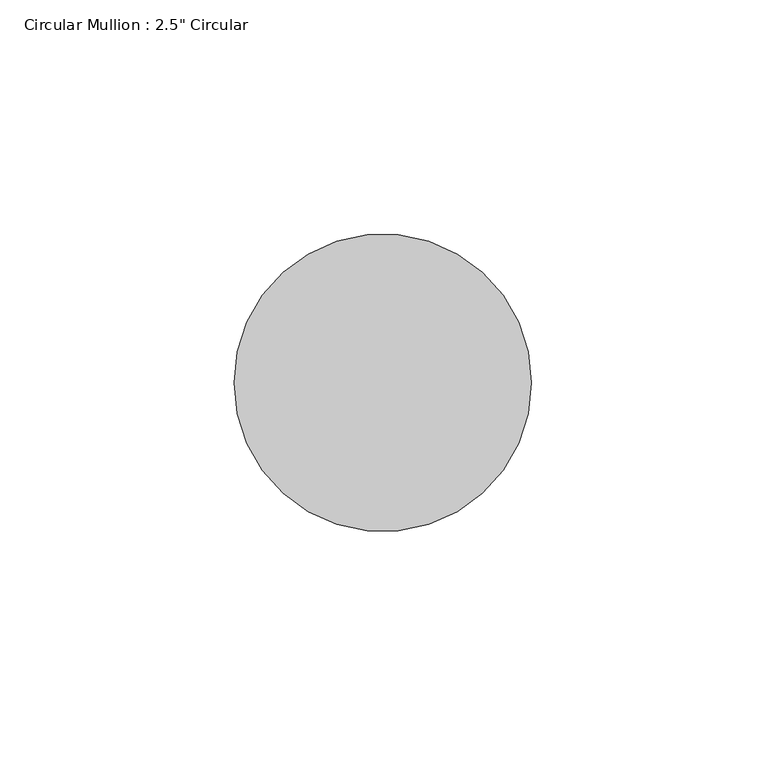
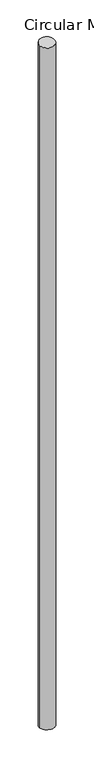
"""IFC4 building model written with IfcOpenShell, lengths in millimetres: member geometry."""

import ifcopenshell
import ifcopenshell.guid

model = None  # the IFC model being written
_history = None  # IfcOwnerHistory: only IFC2X3 demands one
_inside = {}  # id of a spatial element -> (the spatial element, [elements in it])
_under = {}  # id of a project, library or spatial element -> (it, [spatial elements below it])
_declared = {}  # id of a project -> (the project, [libraries it declares])
_typed = {}  # id of a type object -> (the type object, [elements of that type])
_made_of = {}  # id of a material, layer set ... -> (it, [elements and type objects made of it])


def new_model(schema):
    """Start an empty IFC model of exactly this schema.

    Asked for "IFC4X3", IfcOpenShell would pick the latest addendum, in which some entities
    have other attributes; the version numbers below select the first issue.
    IFC2X3 requires an IfcOwnerHistory on every rooted entity: one is made here for all.
    """
    global model, _history
    if schema == "IFC4X3":
        model = ifcopenshell.file(schema_version=(4, 3, 0, 0))
    else:
        model = ifcopenshell.file(schema=schema)
    _inside.clear()
    _under.clear()
    _declared.clear()
    _typed.clear()
    _made_of.clear()
    _history = None
    if model.schema == "IFC2X3":
        org = make("IfcOrganization", Name="unknown")
        user = make(
            "IfcPersonAndOrganization",
            ThePerson=make("IfcPerson", FamilyName="unknown"),
            TheOrganization=org,
        )
        app = make(
            "IfcApplication",
            ApplicationDeveloper=org,
            Version="unknown",
            ApplicationFullName="unknown",
            ApplicationIdentifier="unknown",
        )
        _history = make(
            "IfcOwnerHistory",
            OwningUser=user,
            OwningApplication=app,
            ChangeAction="ADDED",
            CreationDate=0,
        )
    return model


def make(cls, **values):
    """One entity of the class cls with the attributes given. An attribute that is None is left unset."""
    return model.create_entity(
        cls, **{name: value for name, value in values.items() if value is not None}
    )


def rooted(cls, **values):
    """An entity with a GlobalId (a new one), such as an element, a storey or a relation."""
    return make(cls, GlobalId=ifcopenshell.guid.new(), OwnerHistory=_history, **values)


def si_unit(unit_type, name, prefix=None):
    """IfcSIUnit, for example si_unit("LENGTHUNIT", "METRE", prefix="MILLI")."""
    return make("IfcSIUnit", UnitType=unit_type, Prefix=prefix, Name=name)


def assignment(units):
    """IfcUnitAssignment: the units of a project."""
    return None if units is None else make("IfcUnitAssignment", Units=units)


def point(xyz):
    """IfcCartesianPoint."""
    return None if xyz is None else make("IfcCartesianPoint", Coordinates=xyz)


def direction(xyz):
    """IfcDirection."""
    return None if xyz is None else make("IfcDirection", DirectionRatios=xyz)


def frame(location, z_axis=None, x_axis=None):
    """IfcAxis2Placement3D, a coordinate frame: its origin and axes. An axis left out is left unset."""
    return make(
        "IfcAxis2Placement3D",
        Location=point(location),
        Axis=direction(z_axis),
        RefDirection=direction(x_axis),
    )


def origin():
    """The frame at (0, 0, 0) with its axes left unset."""
    return frame((0.0, 0.0, 0.0))


def place(relative_to, where):
    """IfcLocalPlacement: puts the frame where relative to a parent placement (None: the world)."""
    return make(
        "IfcLocalPlacement", PlacementRelTo=relative_to, RelativePlacement=where
    )


def context(
    kind, dimensions, precision=None, world=None, true_north=None, identifier=None
):
    """IfcGeometricRepresentationContext, for example the 3D "Model" context."""
    return make(
        "IfcGeometricRepresentationContext",
        ContextIdentifier=identifier,
        ContextType=kind,
        CoordinateSpaceDimension=dimensions,
        Precision=precision,
        WorldCoordinateSystem=world,
        TrueNorth=true_north,
    )


def project(units=None, contexts=None):
    """IfcProject with its units and contexts."""
    return rooted(
        "IfcProject",
        Name="project",
        RepresentationContexts=contexts,
        UnitsInContext=assignment(units),
    )


def spatial(cls, under=None, at=None, **own):
    """A site, building, storey or space (cls), placed at a placement, below another one or the project."""
    s = rooted(cls, ObjectPlacement=at, **own)
    if under is not None:
        _under.setdefault(under.id(), (under, []))[1].append(s)
    return s


def ellipse_curve(where, semi_axis1, semi_axis2):
    """IfcEllipse in the frame where."""
    return make(
        "IfcEllipse", Position=where, SemiAxis1=semi_axis1, SemiAxis2=semi_axis2
    )


def shape(context_of_items, identifier, shape_type, items):
    """IfcShapeRepresentation: the items that make up one representation, for example the "Body"."""
    return make(
        "IfcShapeRepresentation",
        ContextOfItems=context_of_items,
        RepresentationIdentifier=identifier,
        RepresentationType=shape_type,
        Items=items,
    )


def source(mapping_origin, context_of_items, identifier, shape_type, items):
    """IfcRepresentationMap: a shape defined once, which mapped items show again and again."""
    return make(
        "IfcRepresentationMap",
        MappingOrigin=mapping_origin,
        MappedRepresentation=shape(context_of_items, identifier, shape_type, items),
    )


def transform(
    local_origin,
    x_axis=None,
    y_axis=None,
    z_axis=None,
    scale=None,
    scale2=None,
    scale3=None,
    uniform=True,
):
    """IfcCartesianTransformationOperator3D, or its non-uniform kind. x_axis, y_axis, z_axis: its Axis1, 2, 3."""
    if uniform:
        return make(
            "IfcCartesianTransformationOperator3D",
            Axis1=direction(x_axis),
            Axis2=direction(y_axis),
            LocalOrigin=point(local_origin),
            Scale=scale,
            Axis3=direction(z_axis),
        )
    return make(
        "IfcCartesianTransformationOperator3DnonUniform",
        Axis1=direction(x_axis),
        Axis2=direction(y_axis),
        LocalOrigin=point(local_origin),
        Scale=scale,
        Axis3=direction(z_axis),
        Scale2=scale2,
        Scale3=scale3,
    )


def mapped(mapping_source, mapping_target):
    """IfcMappedItem: shows the shape of a source again, moved by a transform."""
    return make(
        "IfcMappedItem", MappingSource=mapping_source, MappingTarget=mapping_target
    )


def made_of(thing, what):
    """Note that an element or type object is made of a material, layer set ...; save() writes the relation."""
    if what is not None:
        _made_of.setdefault(what.id(), (what, []))[1].append(thing)
    return thing


def element(
    cls,
    number,
    at=None,
    inside=None,
    cuts=None,
    type_object=None,
    material=None,
    context=None,
    identifier="Body",
    shape_type=None,
    held_by="IfcProductDefinitionShape",
    body=None,
    shapes=None,
    **own,
):
    """One element of the class cls, such as IfcWall. Its Tag is "e" and its number.

    at: its placement. inside: the storey or other place that contains it. cuts: it is an
    opening in that element (IfcRelVoidsElement). A single representation is given by context,
    identifier, shape_type and body (its items); several are given by shapes. held_by: the class
    of the entity that holds the representations. save() writes the other relations.
    """
    e = rooted(cls, Tag="e%d" % number, ObjectPlacement=at, **own)
    if body is not None:
        shapes = [shape(context, identifier, shape_type, body)]
    if shapes is not None:
        e.Representation = make(held_by, Representations=shapes)
    if inside is not None:
        _inside.setdefault(inside.id(), (inside, []))[1].append(e)
    if cuts is not None:
        rooted(
            "IfcRelVoidsElement", RelatingBuildingElement=cuts, RelatedOpeningElement=e
        )
    if type_object is not None:
        _typed.setdefault(type_object.id(), (type_object, []))[1].append(e)
    return made_of(e, material)


def aggregate(whole, parts):
    """IfcRelAggregates: a whole, such as a stair, and the parts it consists of."""
    return rooted("IfcRelAggregates", RelatingObject=whole, RelatedObjects=parts)


def save(model, path):
    """Write the relations noted so far, then the file.

    IfcRelAggregates (storeys below a building ...), IfcRelContainedInSpatialStructure (elements
    in a storey), IfcRelDefinesByType, IfcRelAssociatesMaterial and IfcRelDeclares: one each for
    every whole, place, type object, material and project.
    """
    for whole, parts in _under.values():
        aggregate(whole, parts)
    for where, things in _inside.values():
        rooted(
            "IfcRelContainedInSpatialStructure",
            RelatedElements=things,
            RelatingStructure=where,
        )
    for kind, things in _typed.values():
        rooted("IfcRelDefinesByType", RelatedObjects=things, RelatingType=kind)
    for what, things in _made_of.values():
        rooted("IfcRelAssociatesMaterial", RelatedObjects=things, RelatingMaterial=what)
    for by, libraries in _declared.values():
        rooted("IfcRelDeclares", RelatingContext=by, RelatedDefinitions=libraries)
    model.write(path)


def plane_surface(at):
    """IfcPlane: the flat surface through the origin of the frame at, square to its z axis."""
    return make("IfcPlane", Position=at)


def cylinder_surface(at, radius):
    """IfcCylindricalSurface: all points at the distance radius from the z axis of the frame at."""
    return make("IfcCylindricalSurface", Position=at, Radius=radius)


def advanced_brep(points, edges, surfaces, faces):
    """IfcAdvancedBrep: a solid bounded by faces that lie on surfaces and meet in shared edges.

    An edge is (start, end): straight between two places in points (the first is 0);
    or (start, end, curve); or (start, end, curve, False) where it runs against its curve.
    A face is (place in surfaces, loops), or (place, loops, False) where it looks against
    its surface's normal. A loop lists edges by number (the first is 1), with a minus sign
    where the edge is run from its end to its start. The first loop is the outer one.
    """
    corners = [point(p) for p in points]
    vertices = [make("IfcVertexPoint", VertexGeometry=c) for c in corners]
    made = []
    for start, end, *more in edges:
        made.append(
            make(
                "IfcEdgeCurve",
                EdgeStart=vertices[start],
                EdgeEnd=vertices[end],
                EdgeGeometry=more[0] if more else make("IfcPolyline", Points=[corners[start], corners[end]]),
                SameSense=more[1] if len(more) > 1 else True,
            )
        )
    hull = []
    for where, loops, *sense in faces:
        bounds = []
        for j, loop in enumerate(loops):
            ring = [make("IfcOrientedEdge", EdgeElement=made[abs(k) - 1], Orientation=k > 0) for k in loop]
            bounds.append(
                make(
                    "IfcFaceOuterBound" if j == 0 else "IfcFaceBound",
                    Bound=make("IfcEdgeLoop", EdgeList=ring),
                    Orientation=True,
                )
            )
        hull.append(make("IfcAdvancedFace", Bounds=bounds, FaceSurface=surfaces[where], SameSense=sense[0] if sense else True))
    return make("IfcAdvancedBrep", Outer=make("IfcClosedShell", CfsFaces=hull))


def member_2e2546f8(model_context):
    return source(origin(), model_context, "Body", "AdvancedBrep", [
        advanced_brep(
        [(-63.5, 0.0, -2.0938782), (0.0, 0.0, 0.0), (0.0, 0.0, -3031.5917976), (-63.5, 0.0, -3028.9379473)],
        [
            (0, 1, ellipse_curve(frame((-31.75, 0.0, -1.0469391), z_axis=(0.03281979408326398, 0.0910043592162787, -0.9953095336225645), x_axis=(0.337660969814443, 0.9362831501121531, 0.09674157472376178)), 31.8996241, 31.75)),
            (1, 2),
            (2, 3, ellipse_curve(frame((-31.75, 0.0, -3030.2648724), z_axis=(0.04152708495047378, 0.10467335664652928, 0.99363926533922), x_axis=(-0.36642345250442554, -0.9236085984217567, 0.11260999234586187)), 31.9532461, 31.75)),
            (3, 0),
            (1, 0, ellipse_curve(frame((-31.75, 0.0, -1.0469391), z_axis=(0.03281979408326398, 0.0910043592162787, -0.9953095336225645), x_axis=(0.337660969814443, 0.9362831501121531, 0.09674157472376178)), 31.8996241, 31.75)),
            (3, 2, ellipse_curve(frame((-31.75, 0.0, -3030.2648724), z_axis=(0.04152708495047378, 0.10467335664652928, 0.99363926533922), x_axis=(-0.36642345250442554, -0.9236085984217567, 0.11260999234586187)), 31.9532461, 31.75)),
        ],
        [
            cylinder_surface(frame((-31.75, 0.0, 0.0), z_axis=(0.0, 0.0, 1.0), x_axis=(1.0, 0.0, 0.0)), 31.75),
            plane_surface(frame((286.7239733, -103.4040769, 0.0), z_axis=(-0.03281979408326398, -0.0910043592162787, 0.9953095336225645), x_axis=(-0.33766096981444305, -0.936283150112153, -0.09674157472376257))),
            plane_surface(frame((283.3180115, -112.4008201, -3031.5917976), z_axis=(-0.04152708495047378, -0.10467335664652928, -0.99363926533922), x_axis=(-0.3664234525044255, -0.9236085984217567, 0.11260999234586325))),
        ],
        [
            (0, [[1, 2, 3, 4]]),
            (0, [[5, -4, 6, -2]]),
            (1, [[-1, -5]]),
            (2, [[-6, -3]]),
        ],
    ),
    ])


if __name__ == "__main__":
    model = new_model("IFC4")
    model_context = context("Model", 3, world=origin())
    ifc_project = project(units=[si_unit("LENGTHUNIT", "METRE", prefix="MILLI")], contexts=[model_context])
    site = spatial("IfcSite", under=ifc_project)
    building = spatial("IfcBuilding", under=site)
    placement = place(None, origin())
    member_shape = member_2e2546f8(model_context)
    element("IfcMember", 1, ObjectType="Circular Mullion : 2.5\" Circular", at=placement, inside=building, context=model_context, shape_type="MappedRepresentation", body=[
        mapped(member_shape, transform((0.0, 0.0, 0.0), x_axis=(1.0, 0.0, 0.0), y_axis=(0.0, 1.0, 0.0), z_axis=(0.0, 0.0, 1.0))),
    ])
    save(model, "model.ifc")
